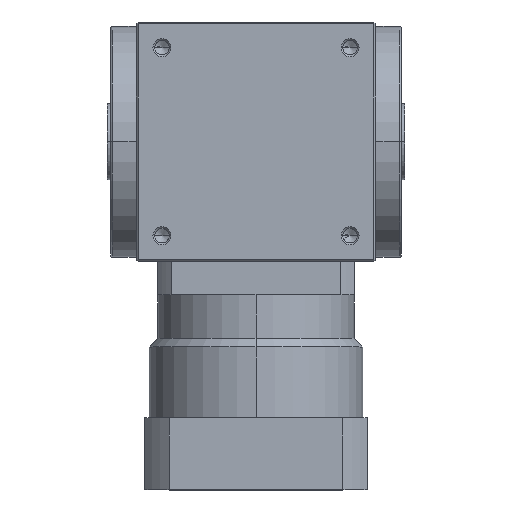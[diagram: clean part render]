
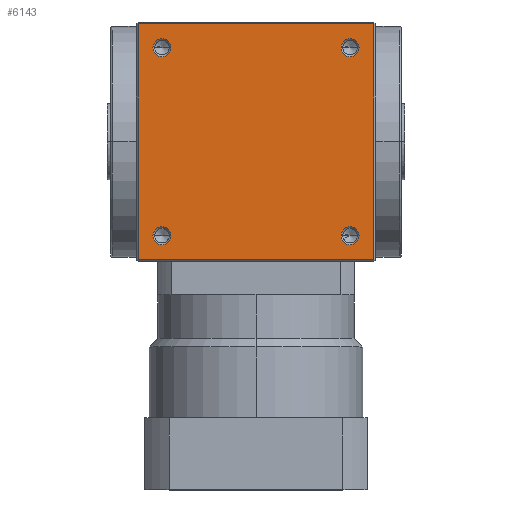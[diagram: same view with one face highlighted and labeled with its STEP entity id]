
A CAD part, top view. The second image highlights one B-rep face of the part: STEP entity #6143.
In plain terms, the highlighted planar face has unit normal (0, 0, 1).
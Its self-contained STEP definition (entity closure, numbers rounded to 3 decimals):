
#38 = EDGE_LOOP ( 'NONE', ( #2252, #1809 ) ) ;
#140 = VERTEX_POINT ( 'NONE', #5071 ) ;
#220 = VECTOR ( 'NONE', #1785, 1000. ) ;
#316 = ORIENTED_EDGE ( 'NONE', *, *, #744, .T. ) ;
#425 = CARTESIAN_POINT ( 'NONE',  ( 0., 69., 70. ) ) ;
#462 = CARTESIAN_POINT ( 'NONE',  ( -69., 0., 70. ) ) ;
#477 = FACE_BOUND ( 'NONE', #3479, .T. ) ;
#545 = VERTEX_POINT ( 'NONE', #4053 ) ;
#589 = CIRCLE ( 'NONE', #5503, 5.25 ) ;
#645 = EDGE_CURVE ( 'NONE', #1017, #140, #4750, .T. ) ;
#647 = EDGE_LOOP ( 'NONE', ( #1245, #3841, #3810, #1828 ) ) ;
#657 = DIRECTION ( 'NONE',  ( 0., 0., -1. ) ) ;
#744 = EDGE_CURVE ( 'NONE', #5936, #6110, #2870, .T. ) ;
#881 = DIRECTION ( 'NONE',  ( 0., 0., -1. ) ) ;
#886 = AXIS2_PLACEMENT_3D ( 'NONE', #3152, #4457, #5139 ) ;
#971 = AXIS2_PLACEMENT_3D ( 'NONE', #4513, #7265, #7297 ) ;
#1017 = VERTEX_POINT ( 'NONE', #3973 ) ;
#1040 = VERTEX_POINT ( 'NONE', #3228 ) ;
#1082 = DIRECTION ( 'NONE',  ( 0., 0., -1. ) ) ;
#1132 = EDGE_CURVE ( 'NONE', #6110, #5936, #7650, .T. ) ;
#1156 = DIRECTION ( 'NONE',  ( 1., 0., 0. ) ) ;
#1194 = CARTESIAN_POINT ( 'NONE',  ( -49.75, -55., 70. ) ) ;
#1245 = ORIENTED_EDGE ( 'NONE', *, *, #4899, .T. ) ;
#1276 = FACE_OUTER_BOUND ( 'NONE', #647, .T. ) ;
#1319 = CARTESIAN_POINT ( 'NONE',  ( -69., 69., 70. ) ) ;
#1411 = EDGE_CURVE ( 'NONE', #5434, #8378, #2885, .T. ) ;
#1549 = DIRECTION ( 'NONE',  ( -1., 0., 0. ) ) ;
#1723 = DIRECTION ( 'NONE',  ( -1., 0., 0. ) ) ;
#1733 = ORIENTED_EDGE ( 'NONE', *, *, #4978, .T. ) ;
#1785 = DIRECTION ( 'NONE',  ( 0., -1., 0. ) ) ;
#1797 = CARTESIAN_POINT ( 'NONE',  ( -60.25, 55., 70. ) ) ;
#1805 = CARTESIAN_POINT ( 'NONE',  ( 0., -69., 70. ) ) ;
#1809 = ORIENTED_EDGE ( 'NONE', *, *, #645, .T. ) ;
#1828 = ORIENTED_EDGE ( 'NONE', *, *, #7295, .T. ) ;
#1926 = AXIS2_PLACEMENT_3D ( 'NONE', #2229, #1082, #1723 ) ;
#2063 = CARTESIAN_POINT ( 'NONE',  ( -69., -69., 70. ) ) ;
#2229 = CARTESIAN_POINT ( 'NONE',  ( -55., -55., 70. ) ) ;
#2252 = ORIENTED_EDGE ( 'NONE', *, *, #4419, .T. ) ;
#2433 = AXIS2_PLACEMENT_3D ( 'NONE', #4541, #7270, #6600 ) ;
#2497 = PLANE ( 'NONE',  #886 ) ;
#2601 = ORIENTED_EDGE ( 'NONE', *, *, #1411, .T. ) ;
#2870 = CIRCLE ( 'NONE', #5657, 5.25 ) ;
#2885 = CIRCLE ( 'NONE', #2433, 5.25 ) ;
#2918 = FACE_BOUND ( 'NONE', #4365, .T. ) ;
#3005 = EDGE_CURVE ( 'NONE', #1040, #6314, #589, .T. ) ;
#3039 = FACE_BOUND ( 'NONE', #7800, .T. ) ;
#3047 = CARTESIAN_POINT ( 'NONE',  ( 55., -55., 70. ) ) ;
#3089 = DIRECTION ( 'NONE',  ( -1., 0., 0. ) ) ;
#3152 = CARTESIAN_POINT ( 'NONE',  ( 0., 0., 70. ) ) ;
#3228 = CARTESIAN_POINT ( 'NONE',  ( 60.25, 55., 70. ) ) ;
#3250 = FACE_BOUND ( 'NONE', #38, .T. ) ;
#3356 = CARTESIAN_POINT ( 'NONE',  ( 69., 0., 70. ) ) ;
#3479 = EDGE_LOOP ( 'NONE', ( #7065, #316 ) ) ;
#3718 = EDGE_CURVE ( 'NONE', #6384, #5333, #6074, .T. ) ;
#3767 = DIRECTION ( 'NONE',  ( -1., 0., 0. ) ) ;
#3810 = ORIENTED_EDGE ( 'NONE', *, *, #6444, .T. ) ;
#3841 = ORIENTED_EDGE ( 'NONE', *, *, #3718, .T. ) ;
#3973 = CARTESIAN_POINT ( 'NONE',  ( 49.75, -55., 70. ) ) ;
#4046 = CARTESIAN_POINT ( 'NONE',  ( 49.75, 55., 70. ) ) ;
#4053 = CARTESIAN_POINT ( 'NONE',  ( 69., 69., 70. ) ) ;
#4240 = CARTESIAN_POINT ( 'NONE',  ( 55., 55., 70. ) ) ;
#4315 = ORIENTED_EDGE ( 'NONE', *, *, #3005, .T. ) ;
#4365 = EDGE_LOOP ( 'NONE', ( #7983, #2601 ) ) ;
#4419 = EDGE_CURVE ( 'NONE', #140, #1017, #7695, .T. ) ;
#4457 = DIRECTION ( 'NONE',  ( 0., 0., -1. ) ) ;
#4513 = CARTESIAN_POINT ( 'NONE',  ( 55., 55., 70. ) ) ;
#4541 = CARTESIAN_POINT ( 'NONE',  ( -55., 55., 70. ) ) ;
#4629 = CARTESIAN_POINT ( 'NONE',  ( -55., -55., 70. ) ) ;
#4750 = CIRCLE ( 'NONE', #8553, 5.25 ) ;
#4774 = EDGE_CURVE ( 'NONE', #8378, #5434, #8155, .T. ) ;
#4794 = DIRECTION ( 'NONE',  ( -1., 0., 0. ) ) ;
#4899 = EDGE_CURVE ( 'NONE', #7052, #6384, #5937, .T. ) ;
#4978 = EDGE_CURVE ( 'NONE', #6314, #1040, #8494, .T. ) ;
#5071 = CARTESIAN_POINT ( 'NONE',  ( 60.25, -55., 70. ) ) ;
#5139 = DIRECTION ( 'NONE',  ( -1., 0., 0. ) ) ;
#5290 = DIRECTION ( 'NONE',  ( -1., 0., 0. ) ) ;
#5333 = VERTEX_POINT ( 'NONE', #8302 ) ;
#5434 = VERTEX_POINT ( 'NONE', #1797 ) ;
#5442 = LINE ( 'NONE', #3356, #7772 ) ;
#5490 = DIRECTION ( 'NONE',  ( 0., 0., -1. ) ) ;
#5503 = AXIS2_PLACEMENT_3D ( 'NONE', #4240, #5490, #4794 ) ;
#5506 = DIRECTION ( 'NONE',  ( 0., 1., 0. ) ) ;
#5637 = AXIS2_PLACEMENT_3D ( 'NONE', #3047, #7781, #3767 ) ;
#5657 = AXIS2_PLACEMENT_3D ( 'NONE', #4629, #657, #5290 ) ;
#5759 = AXIS2_PLACEMENT_3D ( 'NONE', #6144, #8290, #1549 ) ;
#5780 = CARTESIAN_POINT ( 'NONE',  ( -49.75, 55., 70. ) ) ;
#5936 = VERTEX_POINT ( 'NONE', #6881 ) ;
#5937 = LINE ( 'NONE', #462, #220 ) ;
#6074 = LINE ( 'NONE', #1805, #6614 ) ;
#6110 = VERTEX_POINT ( 'NONE', #1194 ) ;
#6143 = ADVANCED_FACE ( 'NONE', ( #1276, #3250, #477, #3039, #2918 ), #2497, .F. ) ;
#6144 = CARTESIAN_POINT ( 'NONE',  ( -55., 55., 70. ) ) ;
#6231 = CARTESIAN_POINT ( 'NONE',  ( 55., -55., 70. ) ) ;
#6314 = VERTEX_POINT ( 'NONE', #4046 ) ;
#6384 = VERTEX_POINT ( 'NONE', #2063 ) ;
#6444 = EDGE_CURVE ( 'NONE', #5333, #545, #5442, .T. ) ;
#6600 = DIRECTION ( 'NONE',  ( -1., 0., 0. ) ) ;
#6614 = VECTOR ( 'NONE', #1156, 1000. ) ;
#6881 = CARTESIAN_POINT ( 'NONE',  ( -60.25, -55., 70. ) ) ;
#7052 = VERTEX_POINT ( 'NONE', #1319 ) ;
#7065 = ORIENTED_EDGE ( 'NONE', *, *, #1132, .T. ) ;
#7265 = DIRECTION ( 'NONE',  ( 0., 0., -1. ) ) ;
#7270 = DIRECTION ( 'NONE',  ( 0., 0., -1. ) ) ;
#7295 = EDGE_CURVE ( 'NONE', #545, #7052, #8129, .T. ) ;
#7297 = DIRECTION ( 'NONE',  ( -1., 0., 0. ) ) ;
#7608 = VECTOR ( 'NONE', #3089, 1000. ) ;
#7650 = CIRCLE ( 'NONE', #1926, 5.25 ) ;
#7695 = CIRCLE ( 'NONE', #5637, 5.25 ) ;
#7772 = VECTOR ( 'NONE', #5506, 1000. ) ;
#7781 = DIRECTION ( 'NONE',  ( 0., 0., -1. ) ) ;
#7800 = EDGE_LOOP ( 'NONE', ( #4315, #1733 ) ) ;
#7983 = ORIENTED_EDGE ( 'NONE', *, *, #4774, .T. ) ;
#8129 = LINE ( 'NONE', #425, #7608 ) ;
#8155 = CIRCLE ( 'NONE', #5759, 5.25 ) ;
#8197 = DIRECTION ( 'NONE',  ( -1., 0., 0. ) ) ;
#8290 = DIRECTION ( 'NONE',  ( 0., 0., -1. ) ) ;
#8302 = CARTESIAN_POINT ( 'NONE',  ( 69., -69., 70. ) ) ;
#8378 = VERTEX_POINT ( 'NONE', #5780 ) ;
#8494 = CIRCLE ( 'NONE', #971, 5.25 ) ;
#8553 = AXIS2_PLACEMENT_3D ( 'NONE', #6231, #881, #8197 ) ;
